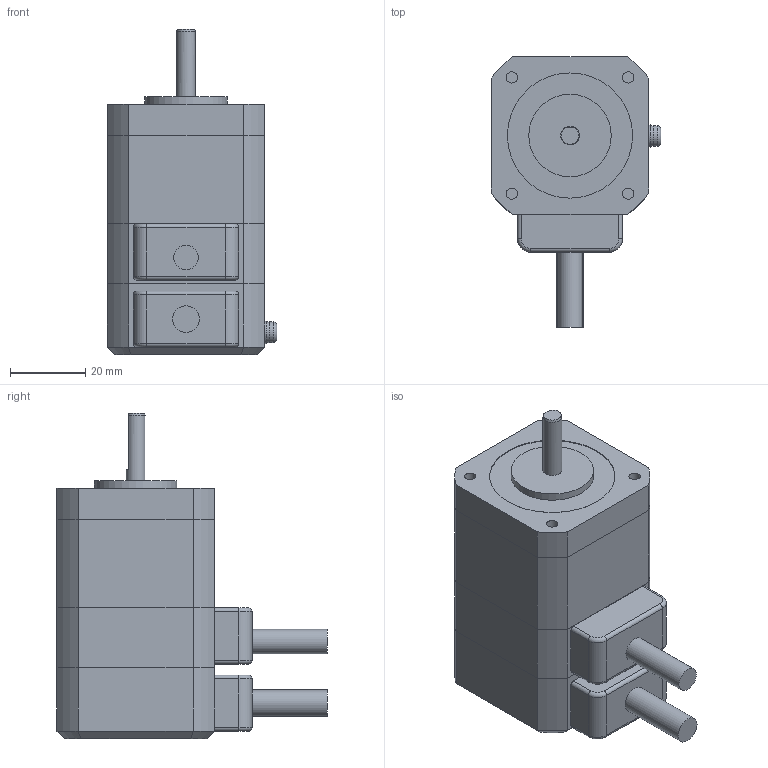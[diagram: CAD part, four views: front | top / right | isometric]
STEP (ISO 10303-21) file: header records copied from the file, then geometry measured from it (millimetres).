
FILE_DESCRIPTION (( 'STEP AP203' ), '1' );
FILE_NAME ('222PMSC-B42D3E.STEP', '2022-04-13T23:46:55', ( '' ), ( '' ), 'SwSTEP 2.0', 'SolidWorks 2018', '' );
FILE_SCHEMA (( 'CONFIG_CONTROL_DESIGN' ));
Length unit declared in the file: millimetre
Products named in the file (1): 222PMSC-B42D3E
Bounding box: 45.2 x 72 x 86.8 mm (x, y, z)
Volume: 124213.3 mm3; surface area: 29583 mm2
Topology: 12 solids, 12 shells, 118 faces, 239 edges, 151 vertices
Faces by surface type: plane 60, cylinder 44, torus 9, cone 5
Full cylindrical faces by diameter (mm): 3 x4, 5 x1, 5.5 x2, 6 x1, 6.5 x1, 7.1 x1, 22 x1, 33.4 x1
Entity records: 3077 total; most frequent: DIRECTION 556, CARTESIAN_POINT 524, ORIENTED_EDGE 450, EDGE_CURVE 225, AXIS2_PLACEMENT_3D 222, VERTEX_POINT 150, EDGE_LOOP 137, FACE_OUTER_BOUND 131
